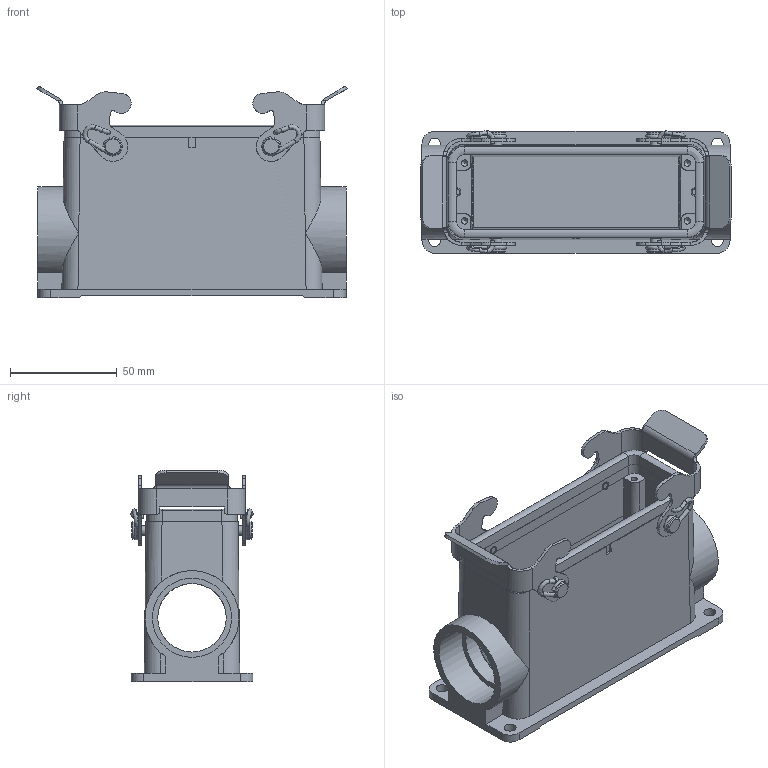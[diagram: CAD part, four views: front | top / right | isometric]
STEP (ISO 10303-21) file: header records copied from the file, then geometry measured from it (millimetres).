
FILE_DESCRIPTION(/* description */ (''),/* implementation_level */ '2;1');
FILE_NAME(/* name */ '100179922ugm000_d.stp',/* time_stamp */ '2022-03-11T15:13:11+01:00',/* author */ (''),/* organization */ (''),/* preprocessor_version */ 'ST-DEVELOPER v16.7',/* originating_system */ 'SIEMENS PLM Software NX 1911',/* authorisation */ '');
FILE_SCHEMA (('AUTOMOTIVE_DESIGN { 1 0 10303 214 3 1 1 1 }'));
Length unit declared in the file: millimetre
Products named in the file (1): 100179922ugm000_d
Bounding box: 145.02 x 57.2 x 99.05 mm (x, y, z)
Volume: 157602.7 mm3; surface area: 78735.3 mm2
Topology: 3 solids, 3 shells, 384 faces, 1186 edges, 914 vertices
Faces by surface type: plane 186, cylinder 122, bspline 60, cone 12, torus 4
Full cylindrical faces by diameter (mm): 2.9 x4, 3 x4, 4 x4, 4.8 x4, 5.6 x4, 8 x4, 32 x2, 37 x2
Entity records: 18686 total; most frequent: CARTESIAN_POINT 6055, ORIENTED_EDGE 2028, DIRECTION 1763, EDGE_CURVE 1014, VERTEX_POINT 712, AXIS2_PLACEMENT_3D 603, LINE 557, VECTOR 557
